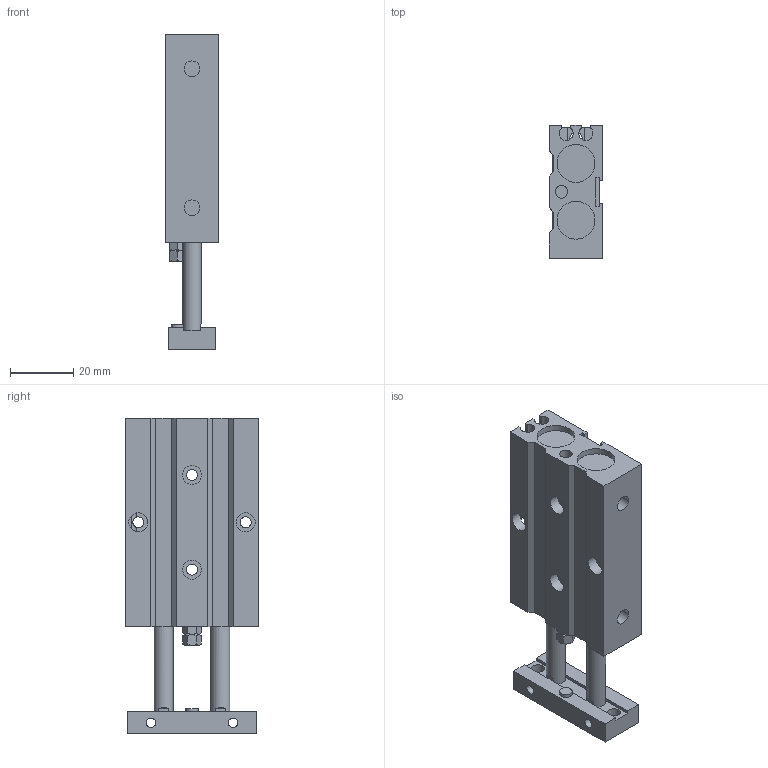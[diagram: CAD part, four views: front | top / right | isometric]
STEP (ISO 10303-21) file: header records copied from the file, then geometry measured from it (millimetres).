
FILE_DESCRIPTION((''),'2;1');
FILE_NAME('I:\3D電子目錄\氣缸\TD\TD10\TD10\TD10x20.stp','2007-08-06T09:34:15',('Administrator'),(''),'Autodesk Inventor 2008','Autodesk Inventor 2008','');
FILE_SCHEMA(('AUTOMOTIVE_DESIGN { 1 0 10303 214 1 1 1 1 }'));
Length unit declared in the file: millimetre
Products named in the file (1): TD10X20
Bounding box: 17 x 42 x 100 mm (x, y, z)
Volume: 45398.7 mm3; surface area: 16357.9 mm2
Topology: 1 solids, 3 shells, 149 faces, 371 edges, 242 vertices
Faces by surface type: plane 97, cylinder 30, bspline 13, cone 7, torus 2
Full cylindrical faces by diameter (mm): 3 x2, 3.5 x4, 4 x2, 4.011 x2, 5 x4, 6 x8, 7 x2, 12 x4
Entity records: 4462 total; most frequent: CARTESIAN_POINT 1123, DIRECTION 646, ORIENTED_EDGE 636, EDGE_CURVE 318, VERTEX_POINT 230, EDGE_LOOP 230, AXIS2_PLACEMENT_3D 221, VECTOR 204
